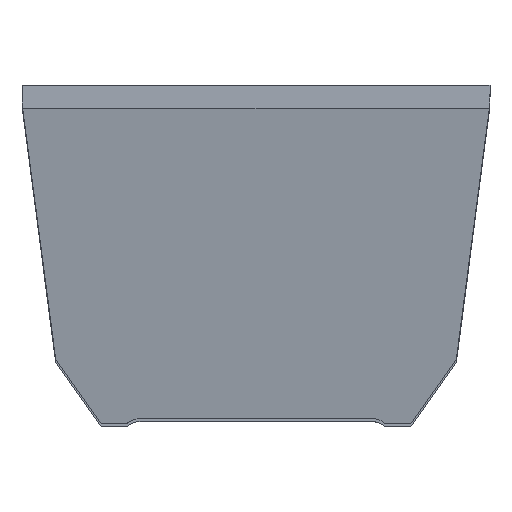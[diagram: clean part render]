
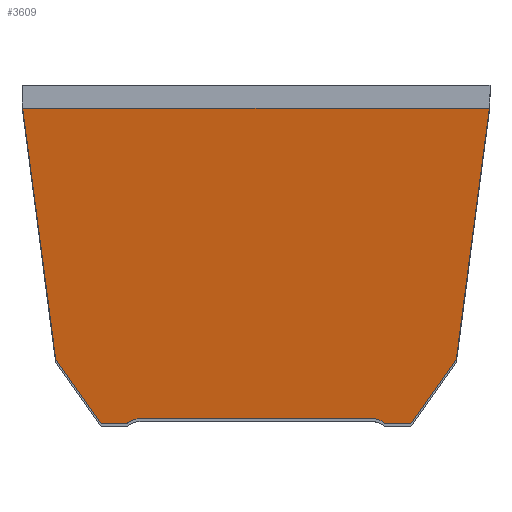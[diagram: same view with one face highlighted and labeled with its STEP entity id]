
A CAD part, top view. The second image highlights one B-rep face of the part: STEP entity #3609.
In plain terms, the highlighted planar face has unit normal (0, -0.147, 0.989).
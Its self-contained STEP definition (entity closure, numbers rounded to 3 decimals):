
#449 = ORIENTED_EDGE ( 'NONE', *, *, #3097, .F. ) ;
#450 = ORIENTED_EDGE ( 'NONE', *, *, #3188, .F. ) ;
#451 = ORIENTED_EDGE ( 'NONE', *, *, #3032, .F. ) ;
#452 = ORIENTED_EDGE ( 'NONE', *, *, #3142, .F. ) ;
#453 = ORIENTED_EDGE ( 'NONE', *, *, #3117, .F. ) ;
#454 = ORIENTED_EDGE ( 'NONE', *, *, #3052, .T. ) ;
#455 = ORIENTED_EDGE ( 'NONE', *, *, #3232, .F. ) ;
#456 = ORIENTED_EDGE ( 'NONE', *, *, #3187, .F. ) ;
#457 = ORIENTED_EDGE ( 'NONE', *, *, #3255, .F. ) ;
#458 = ORIENTED_EDGE ( 'NONE', *, *, #3143, .T. ) ;
#459 = ORIENTED_EDGE ( 'NONE', *, *, #3054, .F. ) ;
#460 = ORIENTED_EDGE ( 'NONE', *, *, #3075, .F. ) ;
#940 = EDGE_LOOP ( 'NONE', ( #460, #459, #458, #457, #456, #455, #454, #453, #452, #451, #450, #449 ) ) ;
#1618 = VERTEX_POINT ( 'NONE', #2294 ) ;
#1619 = VERTEX_POINT ( 'NONE', #2295 ) ;
#1624 = VERTEX_POINT ( 'NONE', #2300 ) ;
#1627 = VERTEX_POINT ( 'NONE', #2303 ) ;
#1629 = VERTEX_POINT ( 'NONE', #2305 ) ;
#1638 = VERTEX_POINT ( 'NONE', #2314 ) ;
#1642 = VERTEX_POINT ( 'NONE', #2318 ) ;
#1647 = VERTEX_POINT ( 'NONE', #2323 ) ;
#1655 = VERTEX_POINT ( 'NONE', #2331 ) ;
#1660 = VERTEX_POINT ( 'NONE', #2336 ) ;
#1664 = VERTEX_POINT ( 'NONE', #2340 ) ;
#1671 = VERTEX_POINT ( 'NONE', #2347 ) ;
#1697 =( BOUNDED_CURVE ( )  B_SPLINE_CURVE ( 3, ( #2383, #2386, #2387, #2388 ),
 .UNSPECIFIED., .F., .F. ) 
 B_SPLINE_CURVE_WITH_KNOTS ( ( 4, 4 ),
 ( 1.667, 1.702 ),
 .UNSPECIFIED. ) 
 CURVE ( )  GEOMETRIC_REPRESENTATION_ITEM ( )  RATIONAL_B_SPLINE_CURVE ( ( 1., 1., 1., 1. ) ) 
 REPRESENTATION_ITEM ( '' )  );
#1699 =( BOUNDED_CURVE ( )  B_SPLINE_CURVE ( 3, ( #2553, #2557, #2558, #2559 ),
 .UNSPECIFIED., .F., .T. ) 
 B_SPLINE_CURVE_WITH_KNOTS ( ( 4, 4 ),
 ( 0., 0.673 ),
 .UNSPECIFIED. ) 
 CURVE ( )  GEOMETRIC_REPRESENTATION_ITEM ( )  RATIONAL_B_SPLINE_CURVE ( ( 1., 0.963, 0.963, 1. ) ) 
 REPRESENTATION_ITEM ( '' )  );
#1700 =( BOUNDED_CURVE ( )  B_SPLINE_CURVE ( 3, ( #2526, #2534, #2535, #2536 ),
 .UNSPECIFIED., .F., .T. ) 
 B_SPLINE_CURVE_WITH_KNOTS ( ( 4, 4 ),
 ( 5.61, 6.283 ),
 .UNSPECIFIED. ) 
 CURVE ( )  GEOMETRIC_REPRESENTATION_ITEM ( )  RATIONAL_B_SPLINE_CURVE ( ( 1., 0.963, 0.963, 1. ) ) 
 REPRESENTATION_ITEM ( '' )  );
#1701 =( BOUNDED_CURVE ( )  B_SPLINE_CURVE ( 3, ( #2425, #2429, #2430, #2431 ),
 .UNSPECIFIED., .F., .T. ) 
 B_SPLINE_CURVE_WITH_KNOTS ( ( 4, 4 ),
 ( 4.581, 4.616 ),
 .UNSPECIFIED. ) 
 CURVE ( )  GEOMETRIC_REPRESENTATION_ITEM ( )  RATIONAL_B_SPLINE_CURVE ( ( 1., 1., 1., 1. ) ) 
 REPRESENTATION_ITEM ( '' )  );
#1934 = FACE_OUTER_BOUND ( 'NONE', #940, .T. ) ;
#2002 = VECTOR ( 'NONE', #2503, 1000. ) ;
#2003 = LINE ( 'NONE', #2502, #2002 ) ;
#2004 = VECTOR ( 'NONE', #2500, 1000. ) ;
#2011 = LINE ( 'NONE', #2487, #2004 ) ;
#2035 = VECTOR ( 'NONE', #2470, 1000. ) ;
#2037 = VECTOR ( 'NONE', #2468, 1000. ) ;
#2044 = LINE ( 'NONE', #2467, #2035 ) ;
#2049 = LINE ( 'NONE', #2461, #2037 ) ;
#2060 = VECTOR ( 'NONE', #2445, 1000. ) ;
#2061 = LINE ( 'NONE', #2444, #2060 ) ;
#2085 = VECTOR ( 'NONE', #2413, 1000. ) ;
#2088 = LINE ( 'NONE', #2399, #2085 ) ;
#2096 = VECTOR ( 'NONE', #2401, 1000. ) ;
#2097 = LINE ( 'NONE', #2400, #2096 ) ;
#2101 = VECTOR ( 'NONE', #2396, 1000. ) ;
#2117 = LINE ( 'NONE', #2391, #2101 ) ;
#2294 = CARTESIAN_POINT ( 'NONE',  ( 45.11, 56.725, 181. ) ) ;
#2295 = CARTESIAN_POINT ( 'NONE',  ( 44.993, 55.7, 180.848 ) ) ;
#2300 = CARTESIAN_POINT ( 'NONE',  ( 38.738, 8.23, 173.813 ) ) ;
#2303 = CARTESIAN_POINT ( 'NONE',  ( 29.972, -4.3, 171.956 ) ) ;
#2305 = CARTESIAN_POINT ( 'NONE',  ( 25.117, -4.3, 171.956 ) ) ;
#2314 = CARTESIAN_POINT ( 'NONE',  ( 22., -3.21, 172.118 ) ) ;
#2318 = CARTESIAN_POINT ( 'NONE',  ( -22., -3.21, 172.118 ) ) ;
#2323 = CARTESIAN_POINT ( 'NONE',  ( -25.117, -4.3, 171.956 ) ) ;
#2331 = CARTESIAN_POINT ( 'NONE',  ( -29.972, -4.3, 171.956 ) ) ;
#2336 = CARTESIAN_POINT ( 'NONE',  ( -38.738, 8.23, 173.813 ) ) ;
#2340 = CARTESIAN_POINT ( 'NONE',  ( -44.993, 55.7, 180.848 ) ) ;
#2347 = CARTESIAN_POINT ( 'NONE',  ( -45.11, 56.725, 181. ) ) ;
#2383 = CARTESIAN_POINT ( 'NONE',  ( 45.11, 56.725, 181. ) ) ;
#2386 = CARTESIAN_POINT ( 'NONE',  ( 45.077, 56.383, 180.949 ) ) ;
#2387 = CARTESIAN_POINT ( 'NONE',  ( 45.038, 56.041, 180.899 ) ) ;
#2388 = CARTESIAN_POINT ( 'NONE',  ( 44.993, 55.7, 180.848 ) ) ;
#2391 = CARTESIAN_POINT ( 'NONE',  ( -491.216, -4.3, 171.956 ) ) ;
#2396 = DIRECTION ( 'NONE',  ( 1., 0., 0. ) ) ;
#2399 = CARTESIAN_POINT ( 'NONE',  ( -44.686, 53.369, 180.503 ) ) ;
#2400 = CARTESIAN_POINT ( 'NONE',  ( -38.099, 7.317, 173.678 ) ) ;
#2401 = DIRECTION ( 'NONE',  ( -0.569, 0.813, 0.121 ) ) ;
#2413 = DIRECTION ( 'NONE',  ( -0.129, 0.981, 0.145 ) ) ;
#2425 = CARTESIAN_POINT ( 'NONE',  ( -44.993, 55.7, 180.848 ) ) ;
#2429 = CARTESIAN_POINT ( 'NONE',  ( -45.038, 56.041, 180.899 ) ) ;
#2430 = CARTESIAN_POINT ( 'NONE',  ( -45.077, 56.383, 180.949 ) ) ;
#2431 = CARTESIAN_POINT ( 'NONE',  ( -45.11, 56.725, 181. ) ) ;
#2444 = CARTESIAN_POINT ( 'NONE',  ( 38.099, 7.317, 173.678 ) ) ;
#2445 = DIRECTION ( 'NONE',  ( -0.569, -0.813, -0.121 ) ) ;
#2461 = CARTESIAN_POINT ( 'NONE',  ( 44.686, 53.369, 180.503 ) ) ;
#2467 = CARTESIAN_POINT ( 'NONE',  ( -491.216, -4.3, 171.956 ) ) ;
#2468 = DIRECTION ( 'NONE',  ( -0.129, -0.981, -0.145 ) ) ;
#2470 = DIRECTION ( 'NONE',  ( 1., 0., 0. ) ) ;
#2487 = CARTESIAN_POINT ( 'NONE',  ( -22., -3.21, 172.118 ) ) ;
#2500 = DIRECTION ( 'NONE',  ( -1., 0., 0. ) ) ;
#2502 = CARTESIAN_POINT ( 'NONE',  ( -15.25, 56.725, 181. ) ) ;
#2503 = DIRECTION ( 'NONE',  ( 1., 0., 0. ) ) ;
#2526 = CARTESIAN_POINT ( 'NONE',  ( 25.117, -4.3, 171.956 ) ) ;
#2534 = CARTESIAN_POINT ( 'NONE',  ( 24.223, -3.587, 172.062 ) ) ;
#2535 = CARTESIAN_POINT ( 'NONE',  ( 23.144, -3.21, 172.118 ) ) ;
#2536 = CARTESIAN_POINT ( 'NONE',  ( 22., -3.21, 172.118 ) ) ;
#2553 = CARTESIAN_POINT ( 'NONE',  ( -22., -3.21, 172.118 ) ) ;
#2557 = CARTESIAN_POINT ( 'NONE',  ( -23.144, -3.21, 172.118 ) ) ;
#2558 = CARTESIAN_POINT ( 'NONE',  ( -24.223, -3.587, 172.062 ) ) ;
#2559 = CARTESIAN_POINT ( 'NONE',  ( -25.117, -4.3, 171.956 ) ) ;
#2884 = PLANE ( 'NONE',  #3155 ) ;
#2887 = CARTESIAN_POINT ( 'NONE',  ( -491.216, 56.725, 181. ) ) ;
#2893 = DIRECTION ( 'NONE',  ( 0., 0.147, -0.989 ) ) ;
#2894 = DIRECTION ( 'NONE',  ( 0., -0.989, -0.147 ) ) ;
#3032 = EDGE_CURVE ( 'NONE', #1618, #1619, #1697, .T. ) ;
#3052 = EDGE_CURVE ( 'NONE', #1629, #1627, #2117, .T. ) ;
#3054 = EDGE_CURVE ( 'NONE', #1655, #1660, #2097, .T. ) ;
#3075 = EDGE_CURVE ( 'NONE', #1660, #1664, #2088, .T. ) ;
#3097 = EDGE_CURVE ( 'NONE', #1664, #1671, #1701, .T. ) ;
#3117 = EDGE_CURVE ( 'NONE', #1624, #1627, #2061, .T. ) ;
#3142 = EDGE_CURVE ( 'NONE', #1619, #1624, #2049, .T. ) ;
#3143 = EDGE_CURVE ( 'NONE', #1655, #1647, #2044, .T. ) ;
#3155 = AXIS2_PLACEMENT_3D ( 'NONE', #2887, #2893, #2894 ) ;
#3187 = EDGE_CURVE ( 'NONE', #1638, #1642, #2011, .T. ) ;
#3188 = EDGE_CURVE ( 'NONE', #1671, #1618, #2003, .T. ) ;
#3232 = EDGE_CURVE ( 'NONE', #1629, #1638, #1700, .T. ) ;
#3255 = EDGE_CURVE ( 'NONE', #1642, #1647, #1699, .T. ) ;
#3609 = ADVANCED_FACE ( 'NONE', ( #1934 ), #2884, .F. ) ;
